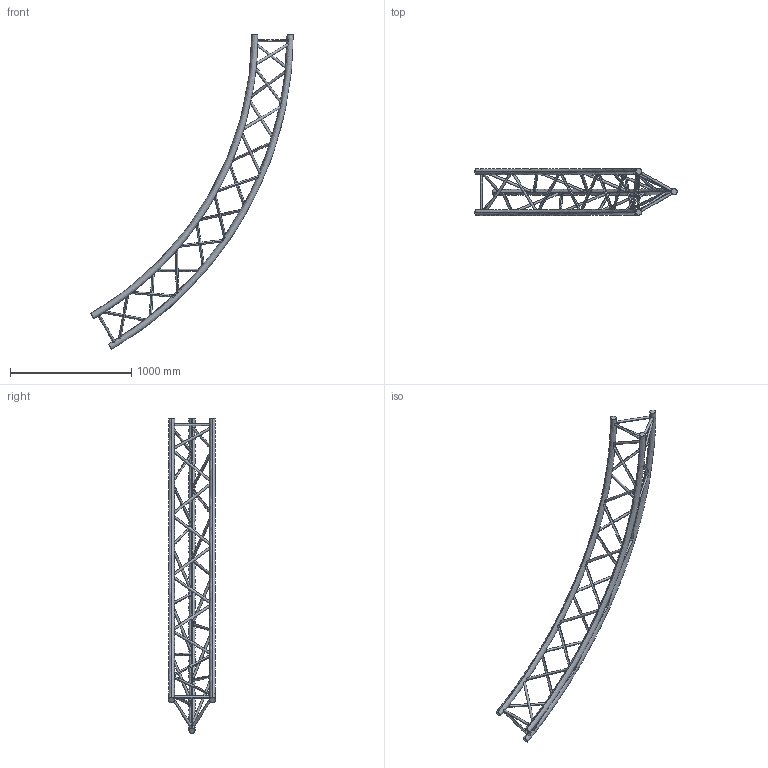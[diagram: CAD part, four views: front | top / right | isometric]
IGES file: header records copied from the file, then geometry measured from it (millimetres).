
Start section: SolidWorks IGES file using analytic representation for surfaces
Global section: file name: K:\BIBLIO\asd_biblio\SX390\Cercles\SXC39PE\SXC39600PE\SXC39600PE.IGS; native system: SolidWorks 2009; preprocessor: SolidWorks 2009; author: des3; date: 091021.141610; units: millimetre
Bounding box: 1670.93 x 387 x 2598.08 mm (x, y, z)
Surface area: 2167902.7 mm2 (no closed solid volume)
Topology: 0 solids, 0 shells, 84 faces, 6072 edges, 6072 vertices
Faces by surface type: revolution 72, bspline 12
